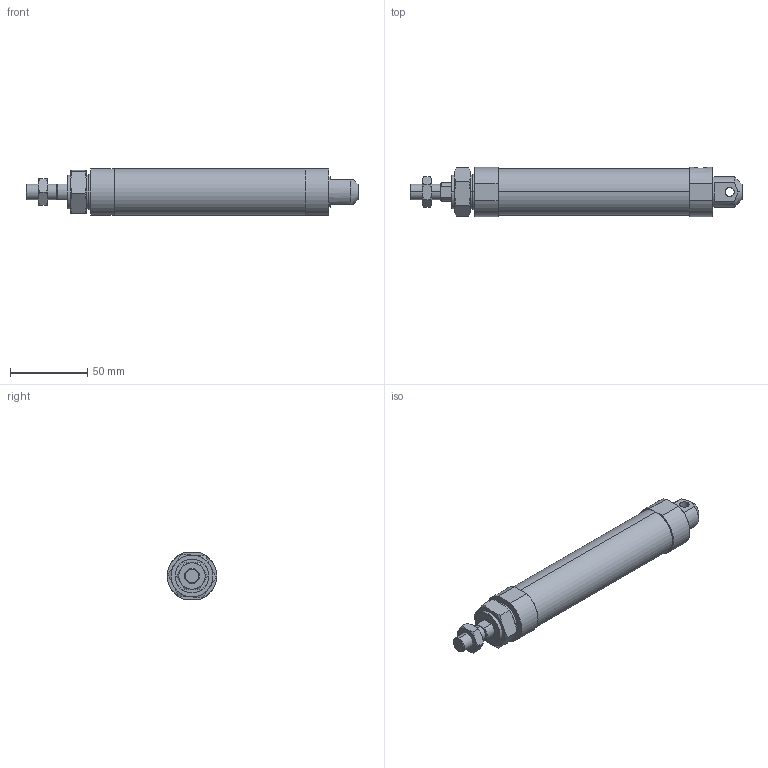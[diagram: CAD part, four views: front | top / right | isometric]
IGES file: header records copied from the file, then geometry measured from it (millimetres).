
Start section: SolidWorks IGES file using analytic representation for surfaces
Global section: file name: C:\Users\Toshiba\Desktop\J#1-25-50-C.IGS; native system: SolidWorks 2014; preprocessor: SolidWorks 2014; author: Toshiba; date: 160308.144852; units: millimetre
Bounding box: 215 x 32 x 30 mm (x, y, z)
Surface area: 22998.5 mm2 (no closed solid volume)
Topology: 0 solids, 0 shells, 93 faces, 1722 edges, 1722 vertices
Faces by surface type: bspline 63, revolution 30
